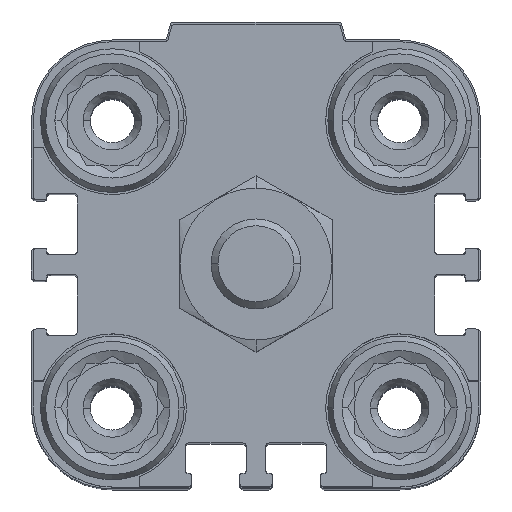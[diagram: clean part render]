
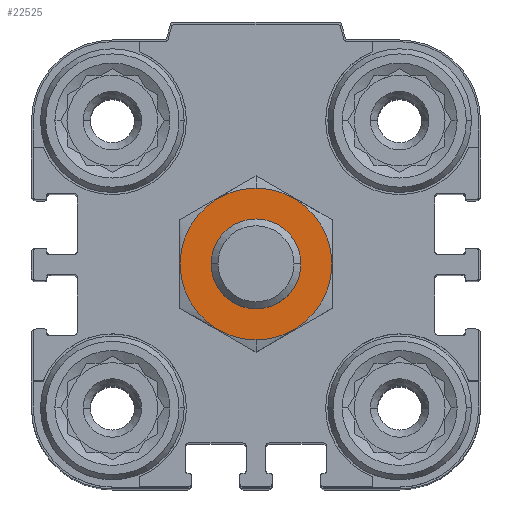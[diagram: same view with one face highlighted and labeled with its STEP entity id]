
A CAD part, top view. The second image highlights one B-rep face of the part: STEP entity #22525.
In plain terms, the highlighted planar face has unit normal (0, 0, 1).
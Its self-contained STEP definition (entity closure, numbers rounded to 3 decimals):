
#123 = VERTEX_POINT ( 'NONE', #15416 ) ;
#1558 = CIRCLE ( 'NONE', #4247, 5. ) ;
#1789 = CARTESIAN_POINT ( 'NONE',  ( 0., 8.45, 15. ) ) ;
#2169 = CARTESIAN_POINT ( 'NONE',  ( 0., 5., 15. ) ) ;
#2492 = AXIS2_PLACEMENT_3D ( 'NONE', #6386, #4435, #20904 ) ;
#3869 = VERTEX_POINT ( 'NONE', #1789 ) ;
#4247 = AXIS2_PLACEMENT_3D ( 'NONE', #6326, #15208, #8158 ) ;
#4435 = DIRECTION ( 'NONE',  ( 0., 0., -1. ) ) ;
#5559 = ORIENTED_EDGE ( 'NONE', *, *, #23649, .F. ) ;
#5965 = CARTESIAN_POINT ( 'NONE',  ( 0., -8.45, 15. ) ) ;
#6326 = CARTESIAN_POINT ( 'NONE',  ( 0., 0., 15. ) ) ;
#6386 = CARTESIAN_POINT ( 'NONE',  ( 0., 0., 15. ) ) ;
#7500 = ORIENTED_EDGE ( 'NONE', *, *, #13900, .T. ) ;
#8034 = DIRECTION ( 'NONE',  ( 0., 0., -1. ) ) ;
#8103 = DIRECTION ( 'NONE',  ( 0., 0., -1. ) ) ;
#8158 = DIRECTION ( 'NONE',  ( 0., -1., 0. ) ) ;
#8334 = FACE_BOUND ( 'NONE', #9865, .T. ) ;
#9025 = CARTESIAN_POINT ( 'NONE',  ( 0., 0., 15. ) ) ;
#9865 = EDGE_LOOP ( 'NONE', ( #7500, #19437 ) ) ;
#10157 = DIRECTION ( 'NONE',  ( 0., -1., 0. ) ) ;
#10278 = PLANE ( 'NONE',  #2492 ) ;
#11402 = CIRCLE ( 'NONE', #12907, 8.45 ) ;
#11436 = AXIS2_PLACEMENT_3D ( 'NONE', #9025, #8034, #15468 ) ;
#11855 = AXIS2_PLACEMENT_3D ( 'NONE', #15646, #8103, #10157 ) ;
#12781 = CARTESIAN_POINT ( 'NONE',  ( 0., 0., 15. ) ) ;
#12907 = AXIS2_PLACEMENT_3D ( 'NONE', #12781, #20105, #16804 ) ;
#13900 = EDGE_CURVE ( 'NONE', #16380, #123, #1558, .T. ) ;
#15061 = VERTEX_POINT ( 'NONE', #5965 ) ;
#15208 = DIRECTION ( 'NONE',  ( 0., 0., -1. ) ) ;
#15397 = FACE_OUTER_BOUND ( 'NONE', #15910, .T. ) ;
#15416 = CARTESIAN_POINT ( 'NONE',  ( 0., -5., 15. ) ) ;
#15468 = DIRECTION ( 'NONE',  ( 0., -1., 0. ) ) ;
#15646 = CARTESIAN_POINT ( 'NONE',  ( 0., 0., 15. ) ) ;
#15910 = EDGE_LOOP ( 'NONE', ( #19791, #5559 ) ) ;
#16380 = VERTEX_POINT ( 'NONE', #2169 ) ;
#16804 = DIRECTION ( 'NONE',  ( 0., -1., 0. ) ) ;
#17483 = EDGE_CURVE ( 'NONE', #15061, #3869, #11402, .T. ) ;
#19437 = ORIENTED_EDGE ( 'NONE', *, *, #23191, .T. ) ;
#19791 = ORIENTED_EDGE ( 'NONE', *, *, #17483, .F. ) ;
#20105 = DIRECTION ( 'NONE',  ( 0., 0., -1. ) ) ;
#20430 = CIRCLE ( 'NONE', #11855, 8.45 ) ;
#20904 = DIRECTION ( 'NONE',  ( 0., -1., 0. ) ) ;
#21176 = CIRCLE ( 'NONE', #11436, 5. ) ;
#22525 = ADVANCED_FACE ( 'NONE', ( #15397, #8334 ), #10278, .F. ) ;
#23191 = EDGE_CURVE ( 'NONE', #123, #16380, #21176, .T. ) ;
#23649 = EDGE_CURVE ( 'NONE', #3869, #15061, #20430, .T. ) ;
